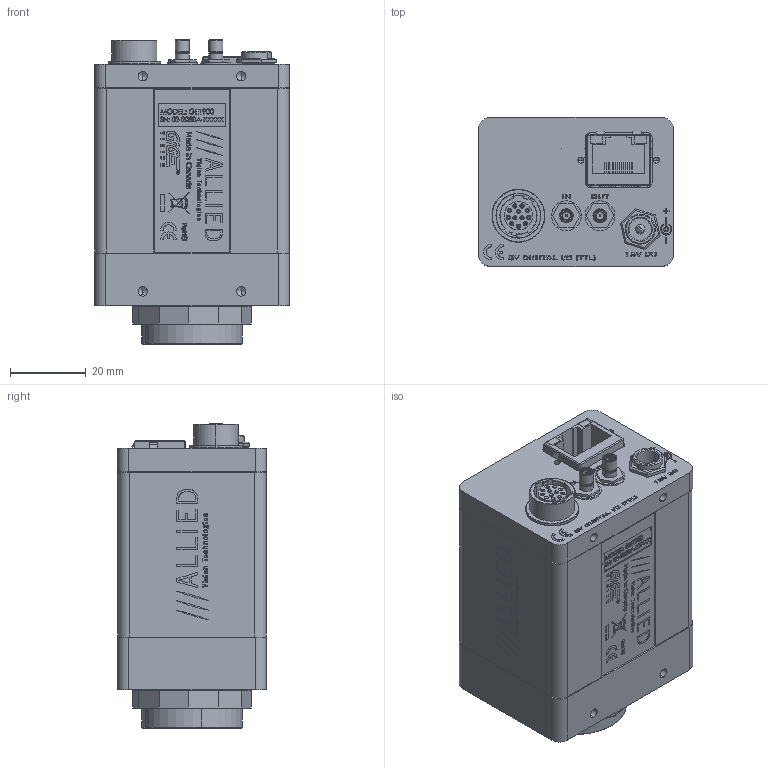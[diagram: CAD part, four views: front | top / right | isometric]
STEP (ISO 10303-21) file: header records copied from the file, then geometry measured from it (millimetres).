
FILE_DESCRIPTION (( 'STEP AP214' ), '1' );
FILE_NAME ('GE1900.STEP', '2013-07-31T21:38:32', ( '' ), ( '' ), 'SwSTEP 2.0', 'SolidWorks 2013', '' );
FILE_SCHEMA (( 'AUTOMOTIVE_DESIGN' ));
Length unit declared in the file: millimetre
Products named in the file (34): 110031A-B EC-CCD LOCKING RING; 140034-SWITCHCRAFT P10149; 110053AA-GE KODAK 2M CCD DUST SHIELD GASKET; 140000-AMPHENOL 903-10408-1; 260009-AMPHENOL 903-406J-51R; 220105-KODAK KAI-2093M; 260010-HIROSE HR10A-10R-12SB NUT; KODAK KAI-2093 WINDOW; 100000AA-CV SMB GROUNDING ASSEMBLY; KODAK KAI-2093 BODY; 140001-AMPHENOL 903-10409-1; 110036B GE COVER EXTRUDED SHORT WITH LOGO_Finished; 270006-JUMPER WIRE MODIFIED; 140007-screw socket head cap #4-40x2; 260014-SWITCHCRAFT PC712A NUT; 260010-HIROSE HR10A-10R-12SB; GE1900; 140002-KEYSTONE 349; 110033B-C GE BACK PLATE; 200031B-A GE INTERFACE PCB ASSY; 100137A - GE CAMERA BACK ASSEMBLY - for GE KODAK 1M2M; 260029 BELFUSE 0826-1C1T-23; 140015-screw pan head phillips 4-40 x 0.1875; 140008-washer spring lock #4; 740031B-GE SERIES LABEL; 100051B - GE BACKPLATE ASSY; 740049A-A GE1900M LABEL PRINT; 260014-SWITCHCRAFT PC712A; 100093A - GE1900M FRONT ASSY; 260010-HIROSE HR10A-10R-12SB WASHER; 110003AC-CV CMOUNT RING; 140034-SWITCHCRAFT P10149 WITH WIRE; 110046A-GE KODAK 2M FRONT PLATE; 270006-JUMPER WIRE 18MM LONG
Assembly tree (47 placements, depth 5):
  GE1900
    140007-screw socket head cap #4-40x2  x4
    110036B GE COVER EXTRUDED SHORT WITH LOGO_Finished
    100093A - GE1900M FRONT ASSY
      220105-KODAK KAI-2093M
        KODAK KAI-2093 BODY
        KODAK KAI-2093 WINDOW
      110053AA-GE KODAK 2M CCD DUST SHIELD GASKET
      110031A-B EC-CCD LOCKING RING
      110046A-GE KODAK 2M FRONT PLATE
      110003AC-CV CMOUNT RING
    740049A-A GE1900M LABEL PRINT
    740031B-GE SERIES LABEL
    140008-washer spring lock #4  x4
    100137A - GE CAMERA BACK ASSEMBLY - for GE KODAK 1M2M
      200031B-A GE INTERFACE PCB ASSY
        260029 BELFUSE 0826-1C1T-23
      100051B - GE BACKPLATE ASSY
        110033B-C GE BACK PLATE
        140002-KEYSTONE 349  x4
        260010-HIROSE HR10A-10R-12SB
        260014-SWITCHCRAFT PC712A NUT
        100000AA-CV SMB GROUNDING ASSEMBLY  x2
          270006-JUMPER WIRE MODIFIED
          140001-AMPHENOL 903-10409-1
        260010-HIROSE HR10A-10R-12SB NUT
        260009-AMPHENOL 903-406J-51R  x2
        140000-AMPHENOL 903-10408-1  x2
        140034-SWITCHCRAFT P10149 WITH WIRE
          140034-SWITCHCRAFT P10149
          270006-JUMPER WIRE 18MM LONG
        260010-HIROSE HR10A-10R-12SB WASHER
        260014-SWITCHCRAFT PC712A
      140015-screw pan head phillips 4-40 x 0.1875
      140008-washer spring lock #4  x2
Bounding box: 51.56 x 39.37 x 80.52 mm (x, y, z)
Volume: 47904.6 mm3; surface area: 67631.7 mm2
Topology: 72 solids, 72 shells, 4038 faces, 10317 edges, 6715 vertices
Faces by surface type: plane 2318, bspline 905, cylinder 577, cone 238
Entity records: 190926 total; most frequent: CARTESIAN_POINT 59814, ORIENTED_EDGE 19488, DIRECTION 15196, EDGE_CURVE 9744, LINE 6766, VECTOR 6766, VERTEX_POINT 6373, EDGE_LOOP 4217
